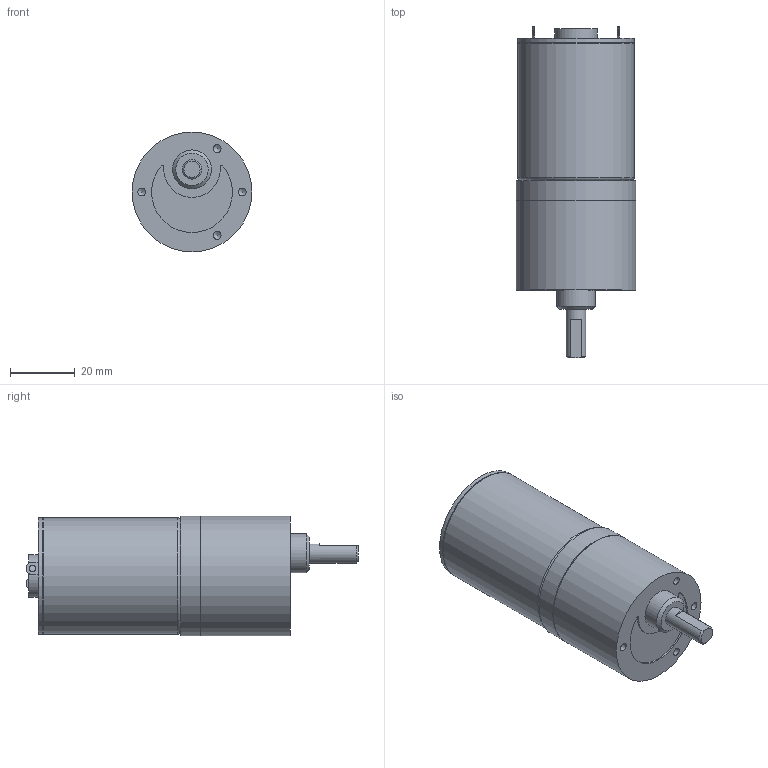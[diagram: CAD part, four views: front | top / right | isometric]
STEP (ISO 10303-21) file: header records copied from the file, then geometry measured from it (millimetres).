
FILE_DESCRIPTION((''),'2;1');
FILE_NAME('C:\Documents and Settings\SSEGAWA\デスクトップ\TP-3644D-HM-6.STP','2013-07-25T10:55:27',('SSEGAWA'),(''),'Autodesk Inventor 2010','Autodesk Inventor 2010','');
FILE_SCHEMA(('CONFIG_CONTROL_DESIGN'));
Length unit declared in the file: millimetre
Products named in the file (1): tp_3644dh_hm-6_Shrinkwrap_1
Bounding box: 37 x 102.6 x 37 mm (x, y, z)
Volume: 82295 mm3; surface area: 12226.9 mm2
Topology: 1 solids, 4 shells, 62 faces, 135 edges, 91 vertices
Faces by surface type: plane 26, cylinder 17, bspline 16, cone 2, torus 1
Full cylindrical faces by diameter (mm): 3 x1, 3.5 x1, 6 x1, 12 x1, 13 x1, 35.6 x1, 36 x2, 36.6 x1, 37 x2
Entity records: 1688 total; most frequent: CARTESIAN_POINT 494, DIRECTION 233, ORIENTED_EDGE 170, EDGE_LOOP 105, AXIS2_PLACEMENT_3D 103, EDGE_CURVE 85, VERTEX_POINT 70, STYLED_ITEM 63
